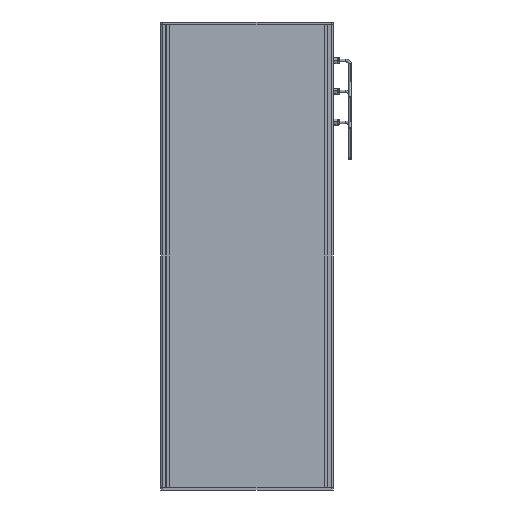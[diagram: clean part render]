
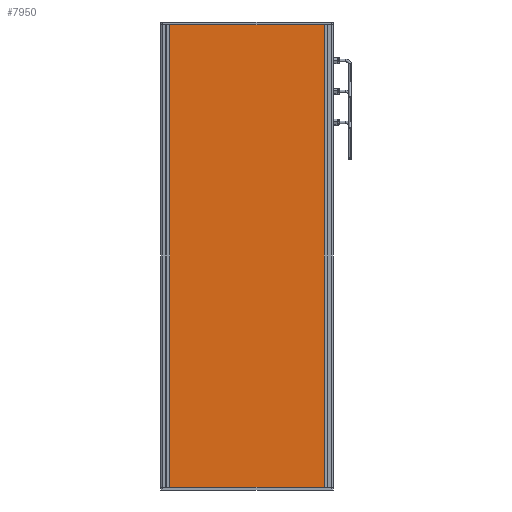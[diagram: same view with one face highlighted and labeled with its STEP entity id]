
A CAD part, front view. The second image highlights one B-rep face of the part: STEP entity #7950.
In plain terms, the highlighted planar face has unit normal (0, -1, 0) as drawn and (0, 0, 1) by its records, which use the part's own axes.
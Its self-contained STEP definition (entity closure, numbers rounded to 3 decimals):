
#309 = CARTESIAN_POINT ( 'NONE',  ( -9., 0., 0. ) ) ;
#843 = ORIENTED_EDGE ( 'NONE', *, *, #12470, .T. ) ;
#1480 = LINE ( 'NONE', #14914, #5788 ) ;
#2248 = DIRECTION ( 'NONE',  ( 0., -1., 0. ) ) ;
#2651 = ORIENTED_EDGE ( 'NONE', *, *, #13744, .T. ) ;
#3170 = FACE_OUTER_BOUND ( 'NONE', #4879, .T. ) ;
#3965 = AXIS2_PLACEMENT_3D ( 'NONE', #8444, #8523, #14805 ) ;
#4639 = CARTESIAN_POINT ( 'NONE',  ( -309., -900., 0. ) ) ;
#4879 = EDGE_LOOP ( 'NONE', ( #16331, #10520, #843, #2651 ) ) ;
#5324 = VERTEX_POINT ( 'NONE', #4639 ) ;
#5788 = VECTOR ( 'NONE', #14660, 1000. ) ;
#6204 = LINE ( 'NONE', #16725, #6605 ) ;
#6605 = VECTOR ( 'NONE', #2248, 1000. ) ;
#7950 = ADVANCED_FACE ( 'NONE', ( #3170 ), #12039, .F. ) ;
#8444 = CARTESIAN_POINT ( 'NONE',  ( 0., 0., 0. ) ) ;
#8523 = DIRECTION ( 'NONE',  ( 0., 0., -1. ) ) ;
#8559 = EDGE_CURVE ( 'NONE', #11844, #10250, #15861, .T. ) ;
#10105 = DIRECTION ( 'NONE',  ( 1., 0., 0. ) ) ;
#10169 = CARTESIAN_POINT ( 'NONE',  ( -309., 0., 0. ) ) ;
#10250 = VERTEX_POINT ( 'NONE', #10169 ) ;
#10520 = ORIENTED_EDGE ( 'NONE', *, *, #8559, .T. ) ;
#11558 = VECTOR ( 'NONE', #10105, 1000. ) ;
#11844 = VERTEX_POINT ( 'NONE', #309 ) ;
#11892 = CARTESIAN_POINT ( 'NONE',  ( -9., 0., 0. ) ) ;
#12039 = PLANE ( 'NONE',  #3965 ) ;
#12435 = CARTESIAN_POINT ( 'NONE',  ( -9., -900., 0. ) ) ;
#12470 = EDGE_CURVE ( 'NONE', #10250, #5324, #6204, .T. ) ;
#13535 = CARTESIAN_POINT ( 'NONE',  ( -9., -900., 0. ) ) ;
#13744 = EDGE_CURVE ( 'NONE', #5324, #15907, #16569, .T. ) ;
#14660 = DIRECTION ( 'NONE',  ( 0., 1., 0. ) ) ;
#14791 = EDGE_CURVE ( 'NONE', #15907, #11844, #1480, .T. ) ;
#14805 = DIRECTION ( 'NONE',  ( -1., 0., 0. ) ) ;
#14914 = CARTESIAN_POINT ( 'NONE',  ( -9., 0., 0. ) ) ;
#15256 = VECTOR ( 'NONE', #15701, 1000. ) ;
#15701 = DIRECTION ( 'NONE',  ( -1., 0., 0. ) ) ;
#15861 = LINE ( 'NONE', #11892, #15256 ) ;
#15907 = VERTEX_POINT ( 'NONE', #13535 ) ;
#16331 = ORIENTED_EDGE ( 'NONE', *, *, #14791, .T. ) ;
#16569 = LINE ( 'NONE', #12435, #11558 ) ;
#16725 = CARTESIAN_POINT ( 'NONE',  ( -309., 0., 0. ) ) ;
